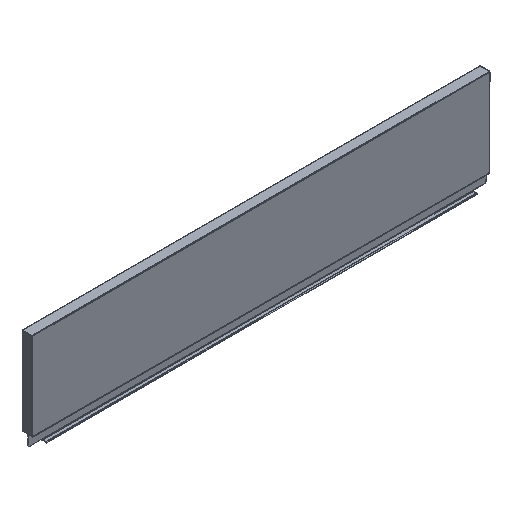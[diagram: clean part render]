
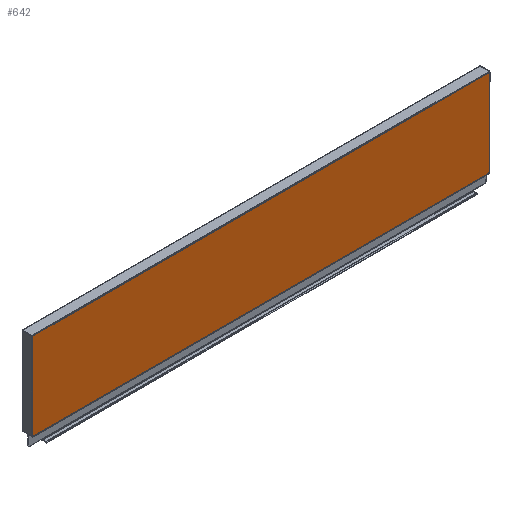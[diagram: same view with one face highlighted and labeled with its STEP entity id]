
A CAD part, isometric view. The second image highlights one B-rep face of the part: STEP entity #642.
In plain terms, the highlighted planar face has unit normal (0, -1, 0).
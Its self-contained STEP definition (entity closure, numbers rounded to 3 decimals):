
#30 = VERTEX_POINT ( 'NONE', #471 ) ;
#307 = DIRECTION ( 'NONE',  ( 1., 0., 0. ) ) ;
#310 = DIRECTION ( 'NONE',  ( 0., -1., 0. ) ) ;
#312 = CARTESIAN_POINT ( 'NONE',  ( -355., -6., 17. ) ) ;
#314 = PLANE ( 'NONE',  #1284 ) ;
#341 = CARTESIAN_POINT ( 'NONE',  ( -354., -6., 151.5 ) ) ;
#348 = CARTESIAN_POINT ( 'NONE',  ( 354., -6., 17.5 ) ) ;
#361 = CARTESIAN_POINT ( 'NONE',  ( 354., -6., 152. ) ) ;
#365 = CARTESIAN_POINT ( 'NONE',  ( -354., -6., 17.5 ) ) ;
#371 = CARTESIAN_POINT ( 'NONE',  ( -354., -6., 152. ) ) ;
#372 = CARTESIAN_POINT ( 'NONE',  ( -353.5, -6., 17. ) ) ;
#379 = CARTESIAN_POINT ( 'NONE',  ( 353.5, -6., 17. ) ) ;
#382 = CARTESIAN_POINT ( 'NONE',  ( 353.5, -6., 17.5 ) ) ;
#383 = CARTESIAN_POINT ( 'NONE',  ( 354., -6., 151.5 ) ) ;
#471 = CARTESIAN_POINT ( 'NONE',  ( -353.5, -6., 17.5 ) ) ;
#483 = VERTEX_POINT ( 'NONE', #383 ) ;
#485 = VERTEX_POINT ( 'NONE', #382 ) ;
#488 = VERTEX_POINT ( 'NONE', #379 ) ;
#507 = VERTEX_POINT ( 'NONE', #372 ) ;
#508 = VERTEX_POINT ( 'NONE', #371 ) ;
#514 = VERTEX_POINT ( 'NONE', #365 ) ;
#517 = VERTEX_POINT ( 'NONE', #361 ) ;
#529 = VERTEX_POINT ( 'NONE', #348 ) ;
#536 = VERTEX_POINT ( 'NONE', #341 ) ;
#569 = CARTESIAN_POINT ( 'NONE',  ( -354., -6., 170.385 ) ) ;
#570 = DIRECTION ( 'NONE',  ( 0., 0., -1. ) ) ;
#571 = CARTESIAN_POINT ( 'NONE',  ( -355., -6., 152. ) ) ;
#572 = DIRECTION ( 'NONE',  ( 1., 0., 0. ) ) ;
#573 = CARTESIAN_POINT ( 'NONE',  ( 354., -6., 170.385 ) ) ;
#574 = DIRECTION ( 'NONE',  ( 0., 0., -1. ) ) ;
#575 = CARTESIAN_POINT ( 'NONE',  ( 354., -6., 170.385 ) ) ;
#576 = DIRECTION ( 'NONE',  ( 0., 0., -1. ) ) ;
#577 = CARTESIAN_POINT ( 'NONE',  ( -355., -6., 17. ) ) ;
#578 = DIRECTION ( 'NONE',  ( 1., 0., 0. ) ) ;
#579 = CARTESIAN_POINT ( 'NONE',  ( 353.5, -6., 17.5 ) ) ;
#580 = DIRECTION ( 'NONE',  ( 1., 0., 0. ) ) ;
#584 = CARTESIAN_POINT ( 'NONE',  ( -353.5, -6., 17.5 ) ) ;
#585 = DIRECTION ( 'NONE',  ( 0., 0., -1. ) ) ;
#586 = CARTESIAN_POINT ( 'NONE',  ( -354., -6., 170.385 ) ) ;
#587 = DIRECTION ( 'NONE',  ( 0., 0., -1. ) ) ;
#590 = CARTESIAN_POINT ( 'NONE',  ( 353.5, -6., 15.3 ) ) ;
#591 = DIRECTION ( 'NONE',  ( 0., 0., 1. ) ) ;
#592 = CARTESIAN_POINT ( 'NONE',  ( -355., -6., 17.5 ) ) ;
#593 = DIRECTION ( 'NONE',  ( 1., 0., 0. ) ) ;
#642 = ADVANCED_FACE ( 'NONE', ( #1995 ), #314, .T. ) ;
#857 = EDGE_LOOP ( 'NONE', ( #1974, #1973, #1972, #1971, #1970, #1969, #1968, #1967, #1966, #1965 ) ) ;
#1266 = EDGE_CURVE ( 'NONE', #508, #536, #2428, .T. ) ;
#1267 = EDGE_CURVE ( 'NONE', #508, #517, #2430, .T. ) ;
#1268 = EDGE_CURVE ( 'NONE', #517, #483, #2432, .T. ) ;
#1269 = EDGE_CURVE ( 'NONE', #483, #529, #2434, .T. ) ;
#1270 = EDGE_CURVE ( 'NONE', #507, #488, #2436, .T. ) ;
#1271 = EDGE_CURVE ( 'NONE', #485, #529, #2438, .T. ) ;
#1273 = EDGE_CURVE ( 'NONE', #30, #507, #2440, .T. ) ;
#1274 = EDGE_CURVE ( 'NONE', #536, #514, #2443, .T. ) ;
#1276 = EDGE_CURVE ( 'NONE', #488, #485, #2447, .T. ) ;
#1277 = EDGE_CURVE ( 'NONE', #514, #30, #2449, .T. ) ;
#1284 = AXIS2_PLACEMENT_3D ( 'NONE', #312, #310, #307 ) ;
#1965 = ORIENTED_EDGE ( 'NONE', *, *, #1266, .T. ) ;
#1966 = ORIENTED_EDGE ( 'NONE', *, *, #1267, .F. ) ;
#1967 = ORIENTED_EDGE ( 'NONE', *, *, #1268, .F. ) ;
#1968 = ORIENTED_EDGE ( 'NONE', *, *, #1269, .F. ) ;
#1969 = ORIENTED_EDGE ( 'NONE', *, *, #1271, .T. ) ;
#1970 = ORIENTED_EDGE ( 'NONE', *, *, #1276, .T. ) ;
#1971 = ORIENTED_EDGE ( 'NONE', *, *, #1270, .T. ) ;
#1972 = ORIENTED_EDGE ( 'NONE', *, *, #1273, .T. ) ;
#1973 = ORIENTED_EDGE ( 'NONE', *, *, #1277, .T. ) ;
#1974 = ORIENTED_EDGE ( 'NONE', *, *, #1274, .T. ) ;
#1995 = FACE_OUTER_BOUND ( 'NONE', #857, .T. ) ;
#2428 = LINE ( 'NONE', #569, #2429 ) ;
#2429 = VECTOR ( 'NONE', #570, 1000. ) ;
#2430 = LINE ( 'NONE', #571, #2431 ) ;
#2431 = VECTOR ( 'NONE', #572, 1000. ) ;
#2432 = LINE ( 'NONE', #573, #2433 ) ;
#2433 = VECTOR ( 'NONE', #574, 1000. ) ;
#2434 = LINE ( 'NONE', #575, #2435 ) ;
#2435 = VECTOR ( 'NONE', #576, 1000. ) ;
#2436 = LINE ( 'NONE', #577, #2437 ) ;
#2437 = VECTOR ( 'NONE', #578, 1000. ) ;
#2438 = LINE ( 'NONE', #579, #2439 ) ;
#2439 = VECTOR ( 'NONE', #580, 1000. ) ;
#2440 = LINE ( 'NONE', #584, #2442 ) ;
#2442 = VECTOR ( 'NONE', #585, 1000. ) ;
#2443 = LINE ( 'NONE', #586, #2444 ) ;
#2444 = VECTOR ( 'NONE', #587, 1000. ) ;
#2447 = LINE ( 'NONE', #590, #2448 ) ;
#2448 = VECTOR ( 'NONE', #591, 1000. ) ;
#2449 = LINE ( 'NONE', #592, #2450 ) ;
#2450 = VECTOR ( 'NONE', #593, 1000. ) ;
